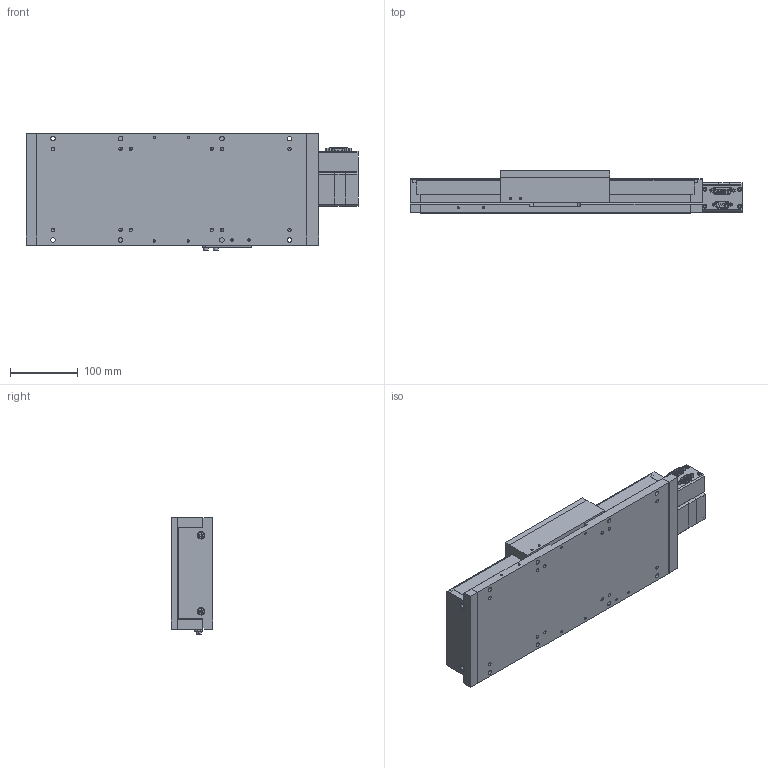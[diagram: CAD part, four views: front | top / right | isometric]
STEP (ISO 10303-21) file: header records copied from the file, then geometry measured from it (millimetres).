
FILE_DESCRIPTION (( 'STEP AP214' ), '1' );
FILE_NAME ('LM3-200-BS-A-H-S-EXPORT.STEP', '2024-05-07T14:52:20', ( 'lab' ), ( '' ), 'SwSTEP 2.0', 'SolidWorks 2018', '' );
FILE_SCHEMA (( 'AUTOMOTIVE_DESIGN' ));
Length unit declared in the file: millimetre
Products named in the file (16): 1000008; 1000005; 1000004; 1000001; 1000010; 1000016; 1000006; 1000009; 1000007; 1000011_200; 1000014_91290A150; 1000002; 1000012; 1000003_91290A148; LM3-200-BS-A-H-S-EXPORT; 1000013
Assembly tree (27 placements, depth 3):
  LM3-200-BS-A-H-S-EXPORT
    1000016
      1000001  x2
      1000002
      1000003_91290A148  x2
      1000004
      1000005
      1000006
      1000007
      1000008
      1000009
      1000010  x4
      1000011_200
      1000012
      1000013
      1000014_91290A150  x8
Bounding box: 491.4 x 62 x 173 mm (x, y, z)
Volume: 3746976.7 mm3; surface area: 391219.3 mm2
Topology: 78 solids, 78 shells, 1728 faces, 3950 edges, 2430 vertices
Faces by surface type: plane 893, cylinder 465, cone 200, bspline 170
Entity records: 52699 total; most frequent: CARTESIAN_POINT 13087, DIRECTION 6644, ORIENTED_EDGE 6488, EDGE_CURVE 3244, AXIS2_PLACEMENT_3D 2352, VERTEX_POINT 2067, LINE 1940, VECTOR 1940
